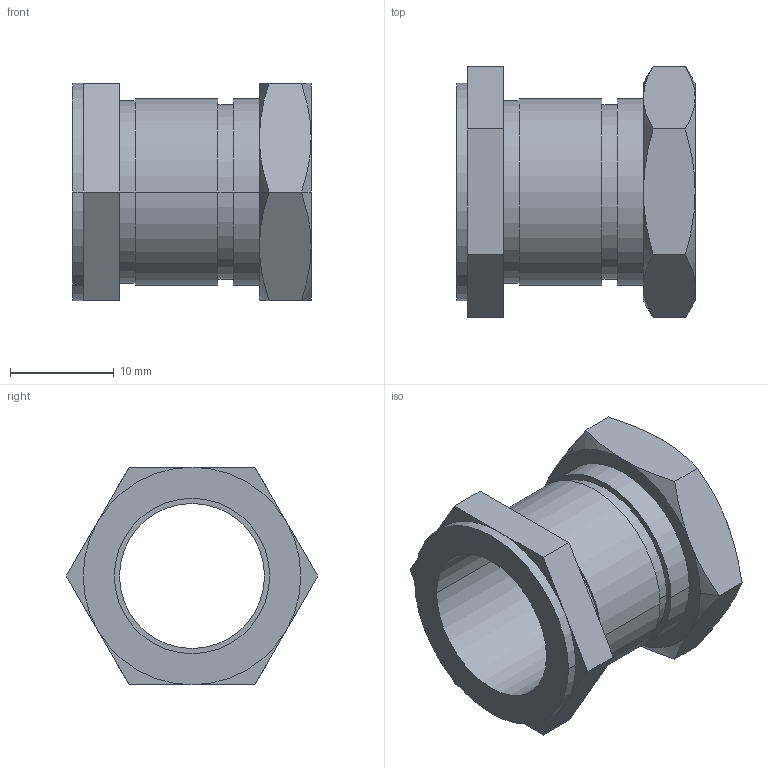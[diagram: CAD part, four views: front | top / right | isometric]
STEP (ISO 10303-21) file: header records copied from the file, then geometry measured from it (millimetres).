
FILE_DESCRIPTION(('Creo Elements/Direct Modeling STEP Export'),'2;1');
FILE_NAME('02ADN371・02ADB692_スラストステム・締付けナット.stp','2021-06-15T11:18:10',(''),(''),'Creo Elements/Direct Modeling STEP processor for AP214 (Solid Model)','Creo Elements/Direct Modeling 18.1I 13-Aug-2016 (C) Parametric Technology GmbH','');
FILE_SCHEMA(('AUTOMOTIVE_DESIGN { 1 0 10303 214 1 1 1 1 }'));
Length unit declared in the file: millimetre
Products named in the file (4): 02ADB692; 02ADN371
Assembly tree (2 placements, depth 2):
  02ADB692
    02ADB692
  02ADN371
    02ADN371
Bounding box: 23 x 24.25 x 21 mm (x, y, z)
Volume: 3014.1 mm3; surface area: 3833.7 mm2
Topology: 2 solids, 2 shells, 59 faces, 135 edges, 85 vertices
Faces by surface type: plane 27, cone 16, cylinder 16
Entity records: 2258 total; most frequent: CARTESIAN_POINT 1046, ORIENTED_EDGE 270, DIRECTION 174, EDGE_CURVE 135, VERTEX_POINT 85, EDGE_LOOP 68, AXIS2_PLACEMENT_3D 65, FACE_OUTER_BOUND 59
